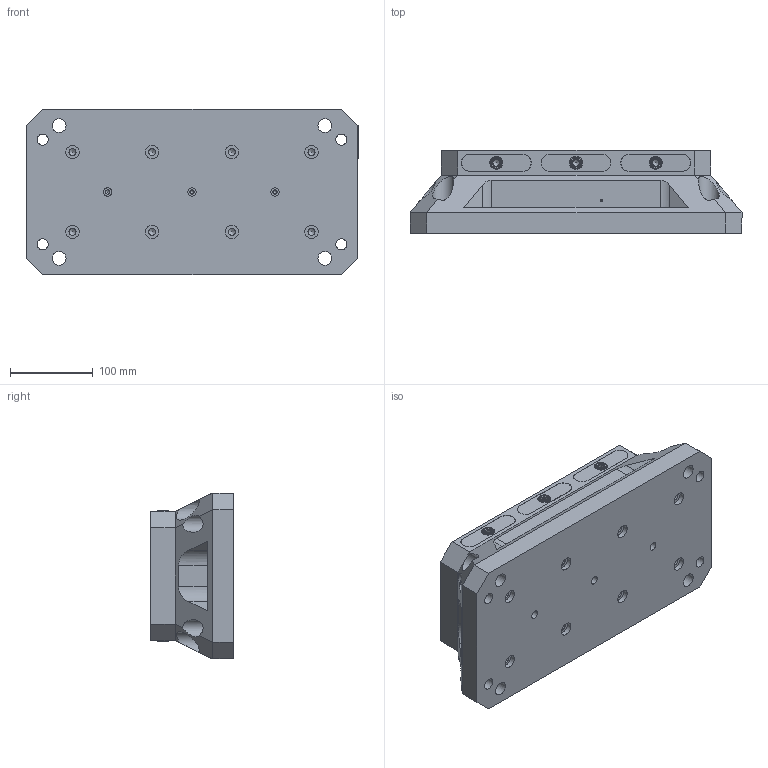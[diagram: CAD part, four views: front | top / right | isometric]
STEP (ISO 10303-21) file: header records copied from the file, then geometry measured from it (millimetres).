
FILE_DESCRIPTION (( 'STEP AP214' ), '1' );
FILE_NAME ('RL96A-4816_WEBSITE.STEP', '2025-08-11T11:23:13', ( '' ), ( '' ), 'SwSTEP 2.0', 'SolidWorks 2025', '' );
FILE_SCHEMA (( 'AUTOMOTIVE_DESIGN' ));
Length unit declared in the file: inch
Products named in the file (10): 9452K121-Truck-O-Ring_WEBSITE; RL96A-4816_WEBSITE; D_RL96-2R_WEBSITE; D_RL96-3_WEBSITE; D_RL96-14816A_WEBSITE; D_HW27X20.DB_WEBSITE; 9750K730_PLASTIC ROUND PLUG_WEBSITE_9750K73; D_RL96-2L_WEBSITE; D_SB54_WEBSITE_FINISHED PART; 9452K183-Base-O-Ring_WEBSITE
Assembly tree (38 placements, depth 2):
  RL96A-4816_WEBSITE
    D_RL96-14816A_WEBSITE
    D_HW27X20.DB_WEBSITE  x8
    D_RL96-2L_WEBSITE  x3
    D_RL96-2R_WEBSITE  x3
    D_RL96-3_WEBSITE  x3
    D_SB54_WEBSITE_FINISHED PART  x6
    9452K183-Base-O-Ring_WEBSITE  x8
    9452K121-Truck-O-Ring_WEBSITE  x6
  9750K730_PLASTIC ROUND PLUG_WEBSITE_9750K73
Bounding box: 400 x 100 x 200 mm (x, y, z)
Volume: 5833951.4 mm3; surface area: 451271.6 mm2
Topology: 44 solids, 44 shells, 858 faces, 1950 edges, 1220 vertices
Faces by surface type: plane 519, cylinder 252, cone 59, torus 22, bspline 6
Full cylindrical faces by diameter (mm): 0.127 x6, 1.993 x2, 2.347 x2, 2.5 x6, 3.3 x6, 4 x6, 4.7 x6, 5 x9, 5.182 x6, 8.204 x6, 8.5 x8, 9 x6, 9.525 x6, 10.025 x3, 10.795 x3, 11.938 x8, 12.573 x8, 13.492 x4, 14 x6, 15.748 x6, 16.02 x8, 16.667 x4, 19.05 x6, 19.101 x8, 19.99 x3, 20.015 x8, 20.035 x8, 20.637 x4, 25.4 x4, 26.982 x8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
Entity records: 15309 total; most frequent: CARTESIAN_POINT 5177, DIRECTION 2070, ORIENTED_EDGE 1668, AXIS2_PLACEMENT_3D 847, EDGE_CURVE 834, EDGE_LOOP 720, VERTEX_POINT 614, FACE_OUTER_BOUND 576
